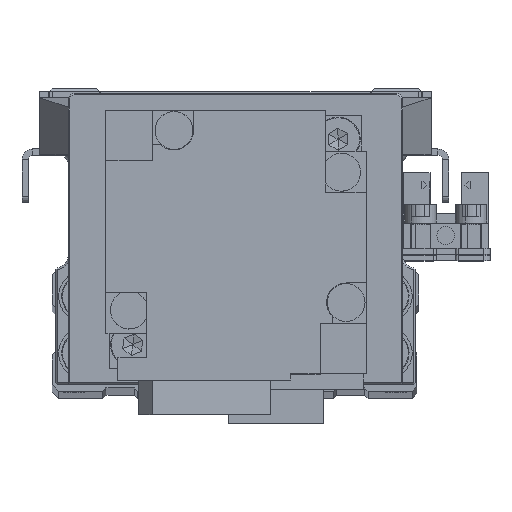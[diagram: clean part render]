
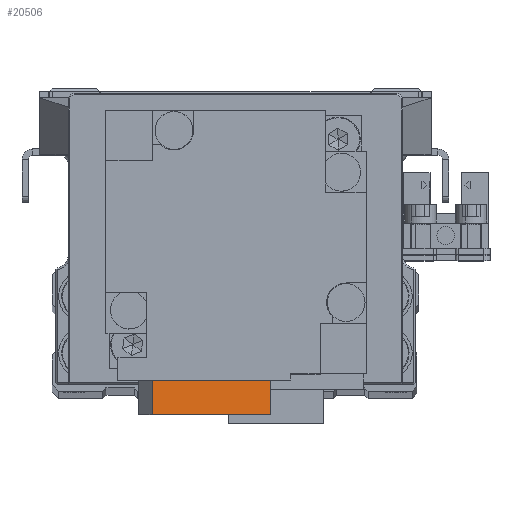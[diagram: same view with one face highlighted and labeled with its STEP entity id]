
A CAD part, top view. The second image highlights one B-rep face of the part: STEP entity #20506.
In plain terms, the highlighted planar face has unit normal (0.156, 0, 0.988) as drawn and (-0.156, 0, -0.988) by its records, which use the part's own axes.
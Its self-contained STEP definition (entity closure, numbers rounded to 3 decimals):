
#125 = VERTEX_POINT ( 'NONE', #30057 ) ;
#686 = CARTESIAN_POINT ( 'NONE',  ( 3.8, -27.5, -77.61 ) ) ;
#2871 = CARTESIAN_POINT ( 'NONE',  ( -5.583, -22., -76.124 ) ) ;
#5547 = VERTEX_POINT ( 'NONE', #7801 ) ;
#6173 = EDGE_CURVE ( 'NONE', #8873, #5547, #30657, .T. ) ;
#6946 = CARTESIAN_POINT ( 'NONE',  ( -5.583, -22., -76.124 ) ) ;
#7801 = CARTESIAN_POINT ( 'NONE',  ( 13.183, -22., -79.096 ) ) ;
#8244 = VECTOR ( 'NONE', #34208, 1000. ) ;
#8873 = VERTEX_POINT ( 'NONE', #6946 ) ;
#9282 = DIRECTION ( 'NONE',  ( 0.156, 0., 0.988 ) ) ;
#9466 = LINE ( 'NONE', #21824, #8244 ) ;
#10888 = LINE ( 'NONE', #23243, #12805 ) ;
#12323 = FACE_OUTER_BOUND ( 'NONE', #16925, .T. ) ;
#12805 = VECTOR ( 'NONE', #35632, 1000. ) ;
#13032 = DIRECTION ( 'NONE',  ( 0.988, 0., -0.156 ) ) ;
#15217 = DIRECTION ( 'NONE',  ( 0.988, 0., -0.156 ) ) ;
#15715 = VECTOR ( 'NONE', #15217, 1000. ) ;
#16925 = EDGE_LOOP ( 'NONE', ( #20105, #29076, #37964, #20956 ) ) ;
#17310 = VECTOR ( 'NONE', #13032, 1000. ) ;
#17894 = CARTESIAN_POINT ( 'NONE',  ( 13.183, -27.5, -79.096 ) ) ;
#20105 = ORIENTED_EDGE ( 'NONE', *, *, #22613, .F. ) ;
#20506 = ADVANCED_FACE ( 'NONE', ( #12323 ), #24684, .F. ) ;
#20956 = ORIENTED_EDGE ( 'NONE', *, *, #6173, .T. ) ;
#21633 = DIRECTION ( 'NONE',  ( 0.988, 0., -0.156 ) ) ;
#21824 = CARTESIAN_POINT ( 'NONE',  ( 13.183, -24.75, -79.096 ) ) ;
#22613 = EDGE_CURVE ( 'NONE', #34672, #5547, #9466, .T. ) ;
#23243 = CARTESIAN_POINT ( 'NONE',  ( -5.583, -24.75, -76.124 ) ) ;
#24684 = PLANE ( 'NONE',  #30147 ) ;
#26336 = EDGE_CURVE ( 'NONE', #125, #34672, #28457, .T. ) ;
#28457 = LINE ( 'NONE', #686, #17310 ) ;
#29076 = ORIENTED_EDGE ( 'NONE', *, *, #26336, .F. ) ;
#30057 = CARTESIAN_POINT ( 'NONE',  ( -5.583, -27.5, -76.124 ) ) ;
#30147 = AXIS2_PLACEMENT_3D ( 'NONE', #37066, #9282, #21633 ) ;
#30657 = LINE ( 'NONE', #2871, #15715 ) ;
#34208 = DIRECTION ( 'NONE',  ( 0., 1., 0. ) ) ;
#34672 = VERTEX_POINT ( 'NONE', #17894 ) ;
#35632 = DIRECTION ( 'NONE',  ( 0., -1., 0. ) ) ;
#37066 = CARTESIAN_POINT ( 'NONE',  ( 3.8, -24.75, -77.61 ) ) ;
#37293 = EDGE_CURVE ( 'NONE', #8873, #125, #10888, .T. ) ;
#37964 = ORIENTED_EDGE ( 'NONE', *, *, #37293, .F. ) ;
